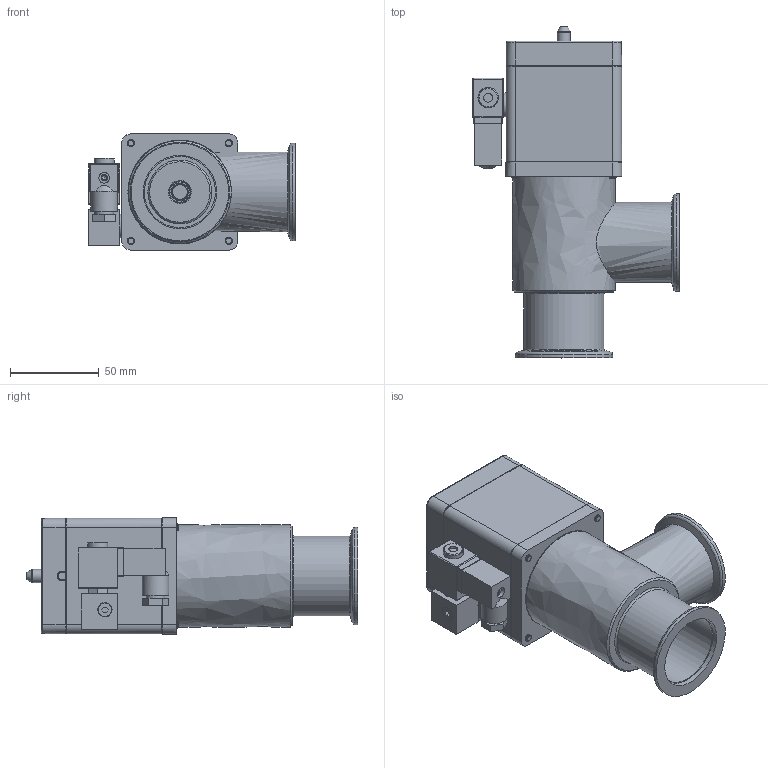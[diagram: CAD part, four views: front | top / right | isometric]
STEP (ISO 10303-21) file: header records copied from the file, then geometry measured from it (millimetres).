
FILE_DESCRIPTION((''),'2;1');
FILE_NAME('C:\TEMP\IDEAS\356582.stp','2012-05-11T09:31:57',('User'),( 'SDRC'),'I-DEAS Master Series','UNIX','Yes');
FILE_SCHEMA(('CONFIG_CONTROL_DESIGN'));
Length unit declared in the file: millimetre
Assembly tree (16 placements, depth 0):
Bounding box: 116.35 x 186.79 x 65.4 mm (x, y, z)
Volume: 247775.5 mm3; surface area: 137148.2 mm2
Topology: 23 solids, 24 shells, 671 faces, 1609 edges, 1043 vertices
Faces by surface type: bspline 671
Entity records: 21264 total; most frequent: CARTESIAN_POINT 10677, ORIENTED_EDGE 2898, EDGE_CURVE 1449, VERTEX_POINT 942, EDGE_LOOP 705, FACE_OUTER_BOUND 596, ADVANCED_FACE 596, B_SPLINE_CURVE_WITH_KNOTS 532
